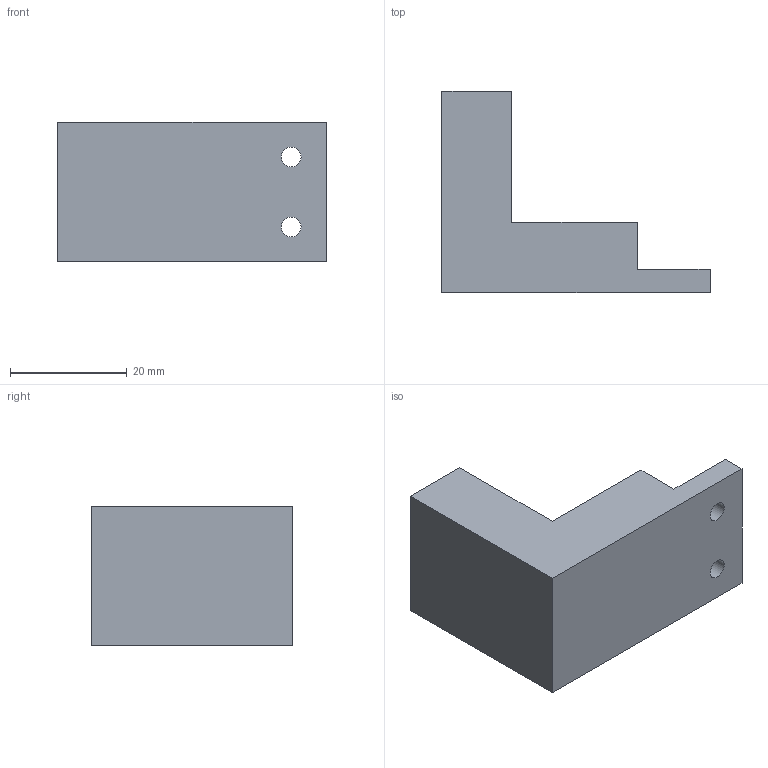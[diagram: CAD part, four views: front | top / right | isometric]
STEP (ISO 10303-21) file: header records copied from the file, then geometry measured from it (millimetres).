
FILE_DESCRIPTION(('Open CASCADE Model'),'2;1');
FILE_NAME('Open CASCADE Shape Model','2026-10-23T08:22:13',('Author'),( 'Open CASCADE'),'Open CASCADE STEP processor 7.9','Open CASCADE 7.9' ,'Unknown');
FILE_SCHEMA(('AUTOMOTIVE_DESIGN { 1 0 10303 214 1 1 1 1 }'));
Length unit declared in the file: millimetre
Products named in the file (1): Open CASCADE STEP translator 7.9 21
Bounding box: 46 x 34.5 x 24 mm (x, y, z)
Volume: 17157.3 mm3; surface area: 5514.1 mm2
Topology: 1 solids, 1 shells, 16 faces, 36 edges, 24 vertices
Faces by surface type: plane 12, cylinder 4
Full cylindrical faces by diameter (mm): 2.5 x2, 3.4 x2
Entity records: 940 total; most frequent: CARTESIAN_POINT 161, DIRECTION 148, LINE 92, VECTOR 92, ORIENTED_EDGE 72, PCURVE 72, DEFINITIONAL_REPRESENTATION 72, EDGE_CURVE 36
